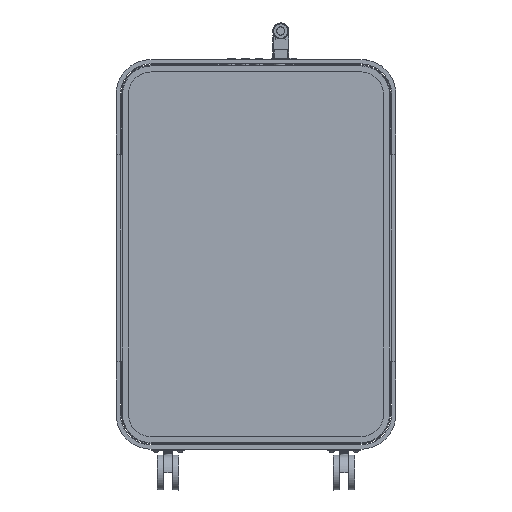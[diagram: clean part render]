
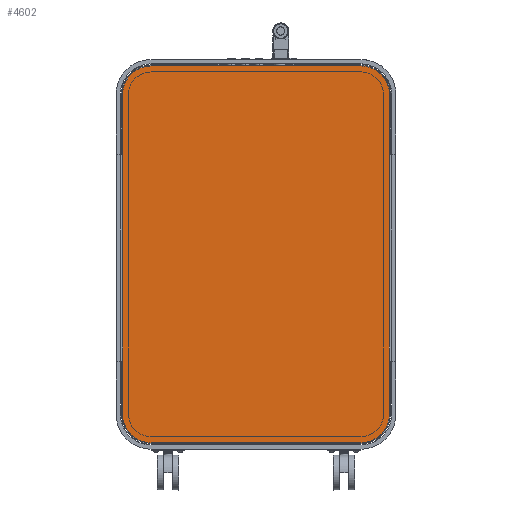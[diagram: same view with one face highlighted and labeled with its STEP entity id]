
A CAD part, front view. The second image highlights one B-rep face of the part: STEP entity #4602.
In plain terms, the highlighted planar face has unit normal (0, -1, 0).
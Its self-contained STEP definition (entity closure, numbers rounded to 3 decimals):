
#4602=ADVANCED_FACE('',(#7566),#48909,.T.);
#7566=FACE_OUTER_BOUND('',#10531,.T.);
#10531=EDGE_LOOP('',(#14042,#14043,#14044,#14045,#14046,#14047,#14048,#14049));
#14042=ORIENTED_EDGE('',*,*,#28377,.T.);
#14043=ORIENTED_EDGE('',*,*,#28426,.T.);
#14044=ORIENTED_EDGE('',*,*,#28396,.T.);
#14045=ORIENTED_EDGE('',*,*,#28399,.T.);
#14046=ORIENTED_EDGE('',*,*,#28378,.T.);
#14047=ORIENTED_EDGE('',*,*,#28407,.T.);
#14048=ORIENTED_EDGE('',*,*,#28413,.T.);
#14049=ORIENTED_EDGE('',*,*,#28416,.T.);
#28377=EDGE_CURVE('',#43688,#43689,#36002,.T.);
#28378=EDGE_CURVE('',#43691,#43692,#36003,.T.);
#28396=EDGE_CURVE('',#43694,#43695,#39558,.T.);
#28399=EDGE_CURVE('',#43695,#43691,#39561,.T.);
#28407=EDGE_CURVE('',#43692,#43693,#39569,.T.);
#28413=EDGE_CURVE('',#43693,#43690,#39575,.T.);
#28416=EDGE_CURVE('',#43690,#43688,#39578,.T.);
#28426=EDGE_CURVE('',#43689,#43694,#39588,.T.);
#36002=B_SPLINE_CURVE_WITH_KNOTS('',1,(#54512,#54513),.UNSPECIFIED.,.F.,
 .F.,(2,2),(0.,390.),.UNSPECIFIED.);
#36003=B_SPLINE_CURVE_WITH_KNOTS('',1,(#54514,#54515),.UNSPECIFIED.,.F.,
 .F.,(2,2),(0.,390.),.UNSPECIFIED.);
#39558=(
BOUNDED_CURVE()
B_SPLINE_CURVE(1,(#54556,#54557),.UNSPECIFIED.,.F.,.F.)
B_SPLINE_CURVE_WITH_KNOTS((2,2),(0.,594.),
 .UNSPECIFIED.)
CURVE()
GEOMETRIC_REPRESENTATION_ITEM()
RATIONAL_B_SPLINE_CURVE((1.,1.))
REPRESENTATION_ITEM('')
);
#39561=(
BOUNDED_CURVE()
B_SPLINE_CURVE(3,(#54572,#54573,#54574,#54575,#54576,#54577,#54578,#54579,
#54580,#54581,#54582),.UNSPECIFIED.,.F.,.F.)
B_SPLINE_CURVE_WITH_KNOTS((4,1,1,1,1,1,1,1,4),(0.,15.579,
24.121,32.874,41.626,50.378,59.131,
67.673,83.252),.UNSPECIFIED.)
CURVE()
GEOMETRIC_REPRESENTATION_ITEM()
RATIONAL_B_SPLINE_CURVE((1.,1.,1.,1.,1.,1.,
1.,1.,1.,1.,1.))
REPRESENTATION_ITEM('')
);
#39569=(
BOUNDED_CURVE()
B_SPLINE_CURVE(3,(#54610,#54611,#54612,#54613,#54614,#54615,#54616,#54617,
#54618,#54619,#54620),.UNSPECIFIED.,.F.,.F.)
B_SPLINE_CURVE_WITH_KNOTS((4,1,1,1,1,1,1,1,4),(0.,15.579,
24.121,32.874,41.626,50.378,59.131,
67.673,83.252),.UNSPECIFIED.)
CURVE()
GEOMETRIC_REPRESENTATION_ITEM()
RATIONAL_B_SPLINE_CURVE((1.,1.,1.,1.,1.,1.,
1.,1.,1.,1.,1.))
REPRESENTATION_ITEM('')
);
#39575=(
BOUNDED_CURVE()
B_SPLINE_CURVE(1,(#54633,#54634),.UNSPECIFIED.,.F.,.F.)
B_SPLINE_CURVE_WITH_KNOTS((2,2),(0.,594.),
 .UNSPECIFIED.)
CURVE()
GEOMETRIC_REPRESENTATION_ITEM()
RATIONAL_B_SPLINE_CURVE((1.,1.))
REPRESENTATION_ITEM('')
);
#39578=(
BOUNDED_CURVE()
B_SPLINE_CURVE(3,(#54649,#54650,#54651,#54652,#54653,#54654,#54655,#54656,
#54657,#54658,#54659),.UNSPECIFIED.,.F.,.F.)
B_SPLINE_CURVE_WITH_KNOTS((4,1,1,1,1,1,1,1,4),(0.,15.579,24.121,
32.874,41.626,50.378,59.131,67.673,
83.252),.UNSPECIFIED.)
CURVE()
GEOMETRIC_REPRESENTATION_ITEM()
RATIONAL_B_SPLINE_CURVE((1.,1.,1.,1.,1.,1.,
1.,1.,1.,1.,1.))
REPRESENTATION_ITEM('')
);
#39588=(
BOUNDED_CURVE()
B_SPLINE_CURVE(3,(#54707,#54708,#54709,#54710,#54711,#54712,#54713,#54714,
#54715,#54716,#54717,#54718,#54719,#54720,#54721,#54722,#54723,#54724,#54725,
#54726,#54727,#54728,#54729,#54730,#54731),.UNSPECIFIED.,.F.,.F.)
B_SPLINE_CURVE_WITH_KNOTS((4,3,3,3,3,3,3,3,4),(0.,15.579,
24.121,32.874,41.626,50.378,59.131,
67.673,83.252),.UNSPECIFIED.)
CURVE()
GEOMETRIC_REPRESENTATION_ITEM()
RATIONAL_B_SPLINE_CURVE((1.,1.,1.,1.,1.,1.,1.,1.,1.,1.,1.,
1.,1.,1.,1.,1.,1.,1.,1.,1.,1.,1.,1.,1.,1.))
REPRESENTATION_ITEM('')
);
#43688=VERTEX_POINT('',#54424);
#43689=VERTEX_POINT('',#54425);
#43690=VERTEX_POINT('',#54426);
#43691=VERTEX_POINT('',#54427);
#43692=VERTEX_POINT('',#54428);
#43693=VERTEX_POINT('',#54429);
#43694=VERTEX_POINT('',#54430);
#43695=VERTEX_POINT('',#54431);
#48909=PLANE('',#51598);
#51598=AXIS2_PLACEMENT_3D('',#53882,#52703,$);
#52703=DIRECTION('',(0.,-1.,0.));
#53882=CARTESIAN_POINT('',(7478.75,-2265.832,2396.25));
#54424=CARTESIAN_POINT('',(6972.5,-2265.832,1607.5));
#54425=CARTESIAN_POINT('',(7362.5,-2265.832,1607.5));
#54426=CARTESIAN_POINT('',(6919.5,-2265.832,1660.5));
#54427=CARTESIAN_POINT('',(7362.5,-2265.832,2307.5));
#54428=CARTESIAN_POINT('',(6972.5,-2265.832,2307.5));
#54429=CARTESIAN_POINT('',(6919.5,-2265.832,2254.5));
#54430=CARTESIAN_POINT('',(7415.5,-2265.832,1660.5));
#54431=CARTESIAN_POINT('',(7415.5,-2265.832,2254.5));
#54512=CARTESIAN_POINT('',(6972.5,-2265.832,1607.5));
#54513=CARTESIAN_POINT('',(7362.5,-2265.832,1607.5));
#54514=CARTESIAN_POINT('',(7362.5,-2265.832,2307.5));
#54515=CARTESIAN_POINT('',(6972.5,-2265.832,2307.5));
#54556=CARTESIAN_POINT('',(7415.5,-2265.832,1660.5));
#54557=CARTESIAN_POINT('',(7415.5,-2265.832,2254.5));
#54572=CARTESIAN_POINT('',(7415.5,-2265.832,2254.5));
#54573=CARTESIAN_POINT('',(7415.503,-2265.832,2259.694));
#54574=CARTESIAN_POINT('',(7414.307,-2265.832,2267.732));
#54575=CARTESIAN_POINT('',(7410.286,-2265.832,2277.964));
#54576=CARTESIAN_POINT('',(7405.824,-2265.832,2285.446));
#54577=CARTESIAN_POINT('',(7400.147,-2265.832,2292.147));
#54578=CARTESIAN_POINT('',(7393.446,-2265.832,2297.824));
#54579=CARTESIAN_POINT('',(7385.963,-2265.832,2302.286));
#54580=CARTESIAN_POINT('',(7375.732,-2265.832,2306.308));
#54581=CARTESIAN_POINT('',(7367.693,-2265.832,2307.503));
#54582=CARTESIAN_POINT('',(7362.5,-2265.832,2307.5));
#54610=CARTESIAN_POINT('',(6972.5,-2265.832,2307.5));
#54611=CARTESIAN_POINT('',(6967.306,-2265.832,2307.503));
#54612=CARTESIAN_POINT('',(6959.267,-2265.832,2306.308));
#54613=CARTESIAN_POINT('',(6949.036,-2265.832,2302.286));
#54614=CARTESIAN_POINT('',(6941.553,-2265.832,2297.824));
#54615=CARTESIAN_POINT('',(6934.852,-2265.832,2292.147));
#54616=CARTESIAN_POINT('',(6929.175,-2265.832,2285.446));
#54617=CARTESIAN_POINT('',(6924.714,-2265.832,2277.964));
#54618=CARTESIAN_POINT('',(6920.692,-2265.832,2267.732));
#54619=CARTESIAN_POINT('',(6919.496,-2265.832,2259.694));
#54620=CARTESIAN_POINT('',(6919.5,-2265.832,2254.5));
#54633=CARTESIAN_POINT('',(6919.5,-2265.832,2254.5));
#54634=CARTESIAN_POINT('',(6919.5,-2265.832,1660.5));
#54649=CARTESIAN_POINT('',(6919.5,-2265.832,1660.5));
#54650=CARTESIAN_POINT('',(6919.496,-2265.832,1655.306));
#54651=CARTESIAN_POINT('',(6920.692,-2265.832,1647.268));
#54652=CARTESIAN_POINT('',(6924.714,-2265.832,1637.036));
#54653=CARTESIAN_POINT('',(6929.176,-2265.832,1629.554));
#54654=CARTESIAN_POINT('',(6934.852,-2265.832,1622.853));
#54655=CARTESIAN_POINT('',(6941.553,-2265.832,1617.176));
#54656=CARTESIAN_POINT('',(6949.036,-2265.832,1612.714));
#54657=CARTESIAN_POINT('',(6959.267,-2265.832,1608.692));
#54658=CARTESIAN_POINT('',(6967.306,-2265.832,1607.497));
#54659=CARTESIAN_POINT('',(6972.5,-2265.832,1607.5));
#54707=CARTESIAN_POINT('',(7362.5,-2265.832,1607.5));
#54708=CARTESIAN_POINT('',(7367.693,-2265.832,1607.497));
#54709=CARTESIAN_POINT('',(7372.885,-2265.832,1608.269));
#54710=CARTESIAN_POINT('',(7377.855,-2265.832,1609.773));
#54711=CARTESIAN_POINT('',(7380.581,-2265.832,1610.598));
#54712=CARTESIAN_POINT('',(7383.239,-2265.832,1611.643));
#54713=CARTESIAN_POINT('',(7385.797,-2265.832,1612.895));
#54714=CARTESIAN_POINT('',(7388.417,-2265.832,1614.177));
#54715=CARTESIAN_POINT('',(7390.932,-2265.832,1615.677));
#54716=CARTESIAN_POINT('',(7393.306,-2265.832,1617.372));
#54717=CARTESIAN_POINT('',(7395.68,-2265.832,1619.068));
#54718=CARTESIAN_POINT('',(7397.913,-2265.832,1620.96));
#54719=CARTESIAN_POINT('',(7399.976,-2265.832,1623.023));
#54720=CARTESIAN_POINT('',(7402.039,-2265.832,1625.086));
#54721=CARTESIAN_POINT('',(7403.931,-2265.832,1627.32));
#54722=CARTESIAN_POINT('',(7405.627,-2265.832,1629.694));
#54723=CARTESIAN_POINT('',(7407.323,-2265.832,1632.068));
#54724=CARTESIAN_POINT('',(7408.822,-2265.832,1634.582));
#54725=CARTESIAN_POINT('',(7410.105,-2265.832,1637.203));
#54726=CARTESIAN_POINT('',(7411.356,-2265.832,1639.76));
#54727=CARTESIAN_POINT('',(7412.401,-2265.832,1642.419));
#54728=CARTESIAN_POINT('',(7413.226,-2265.832,1645.144));
#54729=CARTESIAN_POINT('',(7414.731,-2265.832,1650.114));
#54730=CARTESIAN_POINT('',(7415.503,-2265.832,1655.306));
#54731=CARTESIAN_POINT('',(7415.5,-2265.832,1660.5));
